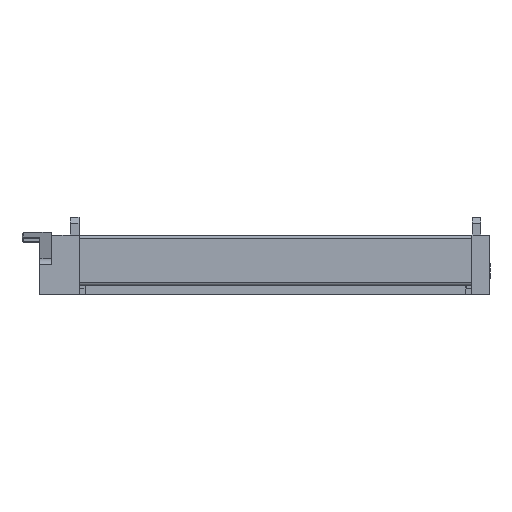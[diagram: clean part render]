
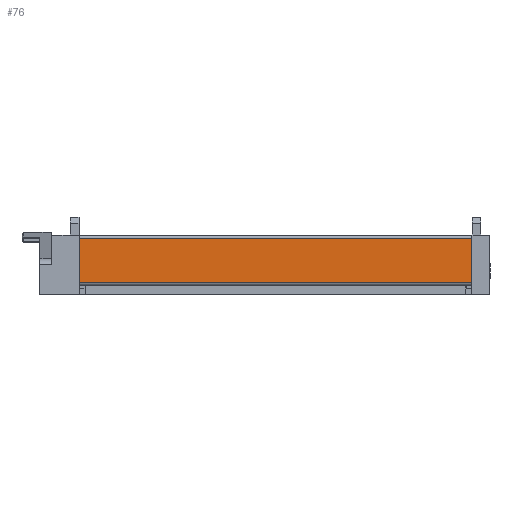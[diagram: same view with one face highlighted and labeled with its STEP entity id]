
A CAD part, front view. The second image highlights one B-rep face of the part: STEP entity #76.
In plain terms, the highlighted planar face has unit normal (0, -1, 0).
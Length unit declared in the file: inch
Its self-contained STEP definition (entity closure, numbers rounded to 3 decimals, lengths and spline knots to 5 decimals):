
#76 = ADVANCED_FACE ( 'NONE', ( #16316 ), #288, .T. ) ;
#228 = DIRECTION ( 'NONE',  ( 0., -1., 0. ) ) ;
#288 = PLANE ( 'NONE',  #9737 ) ;
#290 = DIRECTION ( 'NONE',  ( 0., 0., 1. ) ) ;
#562 = CARTESIAN_POINT ( 'NONE',  ( 18.55, 0.11, -0.01 ) ) ;
#1161 = VECTOR ( 'NONE', #7018, 39.37008 ) ;
#1167 = LINE ( 'NONE', #6659, #1161 ) ;
#5541 = ORIENTED_EDGE ( 'NONE', *, *, #8437, .F. ) ;
#5605 = ORIENTED_EDGE ( 'NONE', *, *, #9441, .F. ) ;
#6067 = ORIENTED_EDGE ( 'NONE', *, *, #8462, .F. ) ;
#6098 = ORIENTED_EDGE ( 'NONE', *, *, #9886, .T. ) ;
#6320 = CARTESIAN_POINT ( 'NONE',  ( 18.55, 0.11, -1.99 ) ) ;
#6454 = DIRECTION ( 'NONE',  ( -1., 0., 0. ) ) ;
#6485 = DIRECTION ( 'NONE',  ( 0., 0., -1. ) ) ;
#6511 = CARTESIAN_POINT ( 'NONE',  ( 18.25, 0.11, 0. ) ) ;
#6659 = CARTESIAN_POINT ( 'NONE',  ( 1.675, 0.11, 0. ) ) ;
#7018 = DIRECTION ( 'NONE',  ( 0., 0., -1. ) ) ;
#8437 = EDGE_CURVE ( 'NONE', #18588, #14718, #12315, .T. ) ;
#8462 = EDGE_CURVE ( 'NONE', #18555, #18588, #12782, .T. ) ;
#9441 = EDGE_CURVE ( 'NONE', #15044, #18555, #12244, .T. ) ;
#9737 = AXIS2_PLACEMENT_3D ( 'NONE', #562, #228, #290 ) ;
#9886 = EDGE_CURVE ( 'NONE', #15044, #14718, #1167, .T. ) ;
#11100 = CARTESIAN_POINT ( 'NONE',  ( 18.55, 0.11, -0.14 ) ) ;
#11299 = DIRECTION ( 'NONE',  ( 1., 0., 0. ) ) ;
#12083 = VECTOR ( 'NONE', #11299, 39.37008 ) ;
#12244 = LINE ( 'NONE', #11100, #12083 ) ;
#12315 = LINE ( 'NONE', #6320, #12975 ) ;
#12780 = VECTOR ( 'NONE', #6485, 39.37008 ) ;
#12782 = LINE ( 'NONE', #6511, #12780 ) ;
#12975 = VECTOR ( 'NONE', #6454, 39.37008 ) ;
#14143 = CARTESIAN_POINT ( 'NONE',  ( 18.25, 0.11, -1.99 ) ) ;
#14384 = CARTESIAN_POINT ( 'NONE',  ( 1.675, 0.11, -0.14 ) ) ;
#14568 = CARTESIAN_POINT ( 'NONE',  ( 18.25, 0.11, -0.14 ) ) ;
#14643 = CARTESIAN_POINT ( 'NONE',  ( 1.675, 0.11, -1.99 ) ) ;
#14718 = VERTEX_POINT ( 'NONE', #14643 ) ;
#15044 = VERTEX_POINT ( 'NONE', #14384 ) ;
#16316 = FACE_OUTER_BOUND ( 'NONE', #19261, .T. ) ;
#18555 = VERTEX_POINT ( 'NONE', #14568 ) ;
#18588 = VERTEX_POINT ( 'NONE', #14143 ) ;
#19261 = EDGE_LOOP ( 'NONE', ( #6067, #5605, #6098, #5541 ) ) ;
